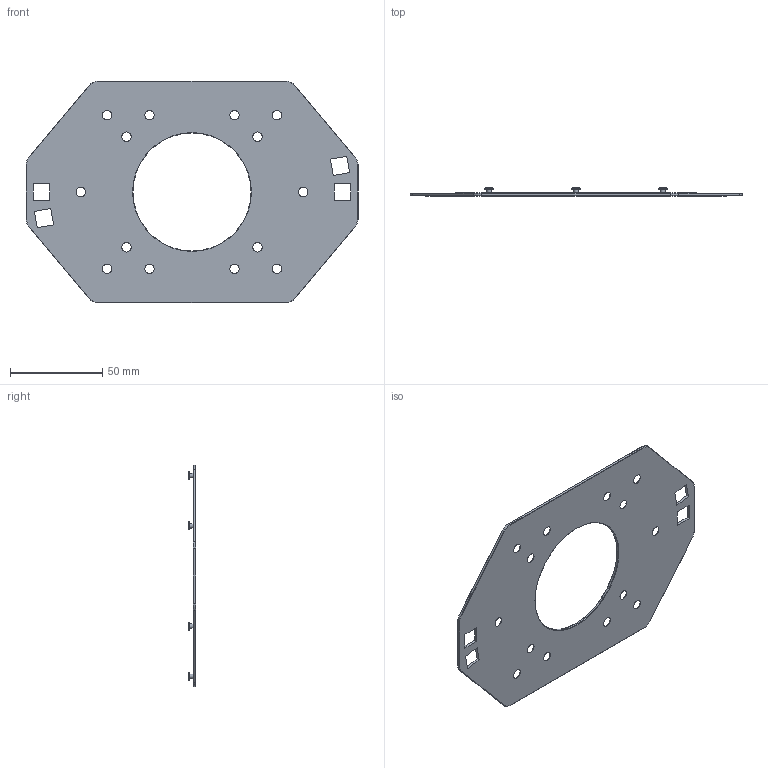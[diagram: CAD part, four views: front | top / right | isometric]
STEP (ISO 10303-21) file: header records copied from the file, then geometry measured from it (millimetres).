
FILE_DESCRIPTION(/* description */ ('STEP AP242','CAx-IF Rec.Pracs.---Representation and Presentation of Product Manufacturing Information (PMI)---4.0---2014-10-13','CAx-IF Rec.Pracs.---3D Tessellated Geometry---0.4---2014-09-14','2;1'),/* implementation_level */ '2;1');
FILE_NAME(/* name */ '6634d48c5996e81fac3b1ef1',/* time_stamp */ '2024-05-03T12:12:03Z',/* author */ (''),/* organization */ (''),/* preprocessor_version */ 'ST-DEVELOPER v20',/* originating_system */ ' ',/* authorisation */ ' ');
FILE_SCHEMA (('AP242_MANAGED_MODEL_BASED_3D_ENGINEERING_MIM_LF { 1 0 10303 442 1 1 4 }'));
Length unit declared in the file: metre
Products named in the file (1): UMP 8
Bounding box: 180 x 4.25 x 120 mm (x, y, z)
Volume: 21820.9 mm3; surface area: 30951.9 mm2
Topology: 1 solids, 1 shells, 119 faces, 269 edges, 164 vertices
Faces by surface type: plane 38, cylinder 37, torus 30, cone 14
Full cylindrical faces by diameter (mm): 2.5 x6, 4.5 x6, 64 x1
Entity records: 3473 total; most frequent: DIRECTION 600, CARTESIAN_POINT 512, ORIENTED_EDGE 456, AXIS2_PLACEMENT_3D 252, EDGE_CURVE 228, EDGE_LOOP 210, FACE_BOUND 210, VERTEX_POINT 164
